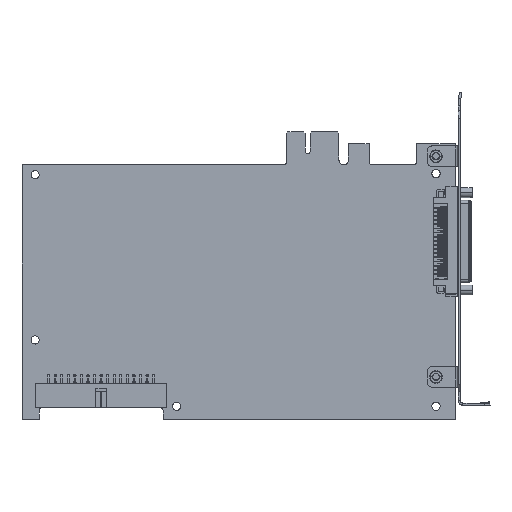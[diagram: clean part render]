
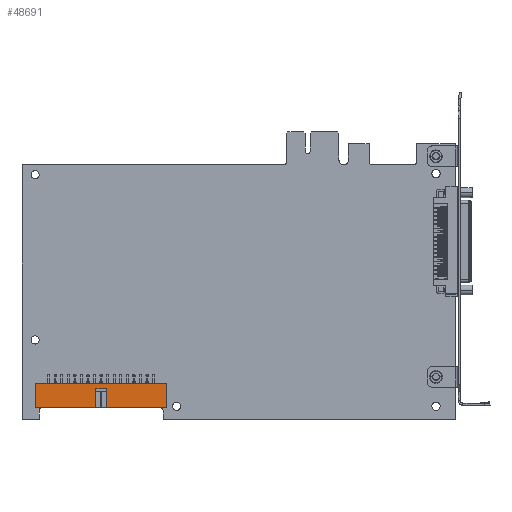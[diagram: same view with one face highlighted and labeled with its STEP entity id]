
A CAD part, top view. The second image highlights one B-rep face of the part: STEP entity #48691.
In plain terms, the highlighted planar face has unit normal (0, 0, 1).
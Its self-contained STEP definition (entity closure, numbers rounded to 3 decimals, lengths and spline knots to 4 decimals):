
#4433=DIRECTION('',(1.,0.,0.));
#4434=VECTOR('',#4433,0.92);
#4435=CARTESIAN_POINT('',(-6.395,-4.025,0.402));
#4436=LINE('',#4435,#4434);
#4465=DIRECTION('',(1.,0.,0.));
#4466=VECTOR('',#4465,0.92);
#4467=CARTESIAN_POINT('',(-5.315,-4.025,0.402));
#4468=LINE('',#4467,#4466);
#13791=DIRECTION('',(1.,0.,0.));
#13792=VECTOR('',#13791,2.);
#13793=CARTESIAN_POINT('',(-6.395,-3.655,0.402));
#13794=LINE('',#13793,#13792);
#14343=DIRECTION('',(0.,1.,0.));
#14344=VECTOR('',#14343,0.37);
#14345=CARTESIAN_POINT('',(-4.395,-4.025,0.402));
#14346=LINE('',#14345,#14344);
#14347=DIRECTION('',(0.,1.,0.));
#14348=VECTOR('',#14347,0.29);
#14349=CARTESIAN_POINT('',(-5.315,-4.025,0.402));
#14350=LINE('',#14349,#14348);
#14351=DIRECTION('',(-1.,0.,0.));
#14352=VECTOR('',#14351,0.16);
#14353=CARTESIAN_POINT('',(-5.315,-3.735,0.402));
#14354=LINE('',#14353,#14352);
#14355=DIRECTION('',(0.,1.,0.));
#14356=VECTOR('',#14355,0.29);
#14357=CARTESIAN_POINT('',(-5.475,-4.025,0.402));
#14358=LINE('',#14357,#14356);
#14359=DIRECTION('',(0.,1.,0.));
#14360=VECTOR('',#14359,0.37);
#14361=CARTESIAN_POINT('',(-6.395,-4.025,0.402));
#14362=LINE('',#14361,#14360);
#28611=CARTESIAN_POINT('',(-6.395,-3.655,0.402));
#28612=CARTESIAN_POINT('',(-4.395,-3.655,0.402));
#28613=VERTEX_POINT('',#28611);
#28614=VERTEX_POINT('',#28612);
#28615=CARTESIAN_POINT('',(-6.395,-4.025,0.402));
#28616=VERTEX_POINT('',#28615);
#28617=CARTESIAN_POINT('',(-4.395,-4.025,0.402));
#28618=VERTEX_POINT('',#28617);
#29520=CARTESIAN_POINT('',(-5.315,-4.025,0.402));
#29522=VERTEX_POINT('',#29520);
#29524=CARTESIAN_POINT('',(-5.475,-4.025,0.402));
#29526=VERTEX_POINT('',#29524);
#29527=CARTESIAN_POINT('',(-5.315,-3.735,0.402));
#29528=VERTEX_POINT('',#29527);
#29529=CARTESIAN_POINT('',(-5.475,-3.735,0.402));
#29530=VERTEX_POINT('',#29529);
#48673=CARTESIAN_POINT('',(-6.395,-4.025,0.402));
#48674=DIRECTION('',(0.,0.,1.));
#48675=DIRECTION('',(1.,0.,0.));
#48676=AXIS2_PLACEMENT_3D('',#48673,#48674,#48675);
#48677=PLANE('',#48676);
#48679=ORIENTED_EDGE('',*,*,#48678,.T.);
#48681=ORIENTED_EDGE('',*,*,#48680,.T.);
#48683=ORIENTED_EDGE('',*,*,#48682,.F.);
#48684=ORIENTED_EDGE('',*,*,#34928,.F.);
#48685=ORIENTED_EDGE('',*,*,#48300,.T.);
#48686=ORIENTED_EDGE('',*,*,#48313,.T.);
#48687=ORIENTED_EDGE('',*,*,#48667,.F.);
#48688=ORIENTED_EDGE('',*,*,#34944,.F.);
#48689=EDGE_LOOP('',(#48679,#48681,#48683,#48684,#48685,#48686,#48687,#48688));
#48690=FACE_OUTER_BOUND('',#48689,.F.);
#48691=ADVANCED_FACE('',(#48690),#48677,.T.);
#34928=EDGE_CURVE('',#28616,#29526,#4436,.T.);
#34944=EDGE_CURVE('',#29522,#28618,#4468,.T.);
#48300=EDGE_CURVE('',#28616,#28613,#14362,.T.);
#48313=EDGE_CURVE('',#28613,#28614,#13794,.T.);
#48667=EDGE_CURVE('',#28618,#28614,#14346,.T.);
#48678=EDGE_CURVE('',#29522,#29528,#14350,.T.);
#48680=EDGE_CURVE('',#29528,#29530,#14354,.T.);
#48682=EDGE_CURVE('',#29526,#29530,#14358,.T.);
